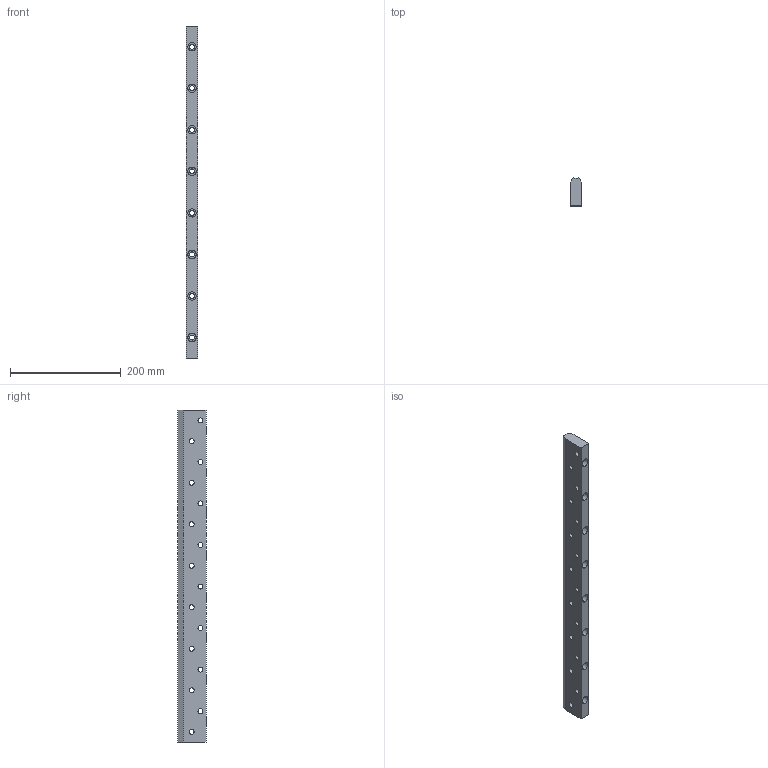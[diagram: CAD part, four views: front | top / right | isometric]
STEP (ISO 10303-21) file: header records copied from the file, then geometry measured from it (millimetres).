
FILE_DESCRIPTION (( 'STEP AP203' ), '1' );
FILE_NAME ('FKWU54-125.step', '2020-03-23T07:53:39', ( '' ), ( '' ), 'SwSTEP 2.0', 'SolidWorks 2019', '' );
FILE_SCHEMA (( 'CONFIG_CONTROL_DESIGN' ));
Length unit declared in the file: millimetre
Products named in the file (2): FKWU54-125
Bounding box: 20 x 50.6 x 599.5 mm (x, y, z)
Volume: 494906.4 mm3; surface area: 105393.6 mm2
Topology: 1 solids, 1 shells, 129 faces, 317 edges, 206 vertices
Faces by surface type: cylinder 96, plane 33
Entity records: 4130 total; most frequent: DIRECTION 739, CARTESIAN_POINT 702, ORIENTED_EDGE 634, EDGE_CURVE 317, AXIS2_PLACEMENT_3D 307, VERTEX_POINT 206, EDGE_LOOP 193, CIRCLE 176
